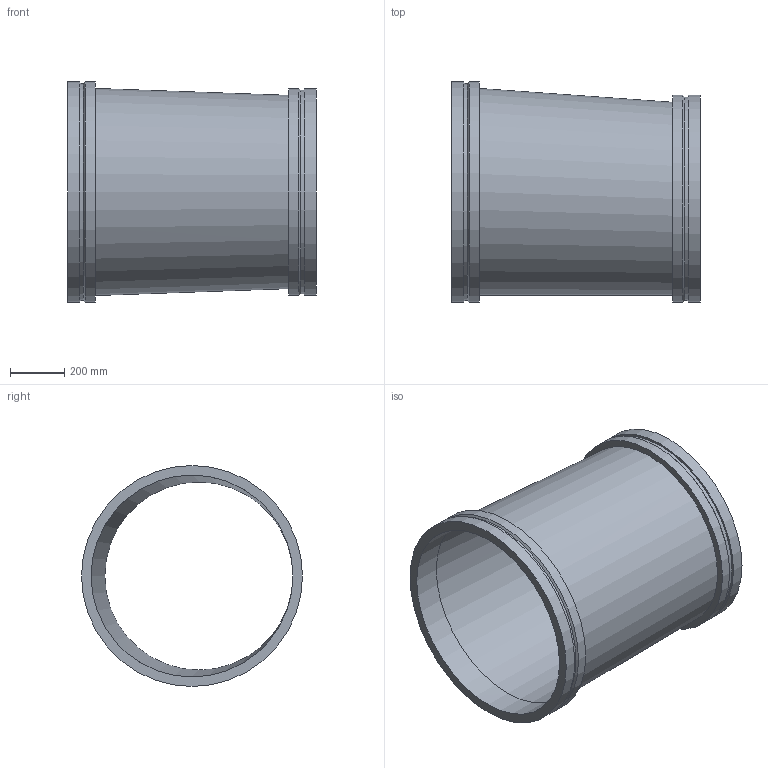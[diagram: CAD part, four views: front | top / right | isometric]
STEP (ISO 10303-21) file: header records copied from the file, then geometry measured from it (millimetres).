
FILE_DESCRIPTION(/* description */ ('VIC REDUCER ECCENTRIC No W51-VR','CAx-IF Rec.Pracs.---Representation and Presentation of Product Manufacturing Information (PMI)---4.0---2014-10-13'),/* implementation_level */ '2;1');
FILE_NAME(/* name */ 'C:\Users\kkamble\AppData\Roaming\Autodesk\ApplicationPlugins\Back Up\Victaulic_Vic-Ring_Reducer Eccentric_No W51 VR (AGR)\Victaulic_Vic-Ring_Reducer Eccentric_No W51 VR (AGR)_30.0x28.0 (750x700).stp',/* time_stamp */ '2020-09-10T11:50:13+05:00',/* author */ ('CONSTRUCTION PIPING SERVICES'),/* organization */ ('Victaulic'),/* preprocessor_version */ 'ST-DEVELOPER v17.2',/* originating_system */ 'Autodesk Inventor 2019',/* authorisation */ '');
FILE_SCHEMA (('AP242_MANAGED_MODEL_BASED_3D_ENGINEERING_MIM_LF { 1 0 10303 442 1 1 4 }'));
Length unit declared in the file: inch
Products named in the file (1): W51 VR-30.0x28.0
Bounding box: 914.4 x 812.8 x 812.8 mm (x, y, z)
Volume: 31698434.2 mm3; surface area: 4550137.7 mm2
Topology: 1 solids, 1 shells, 18 faces, 49 edges, 37 vertices
Faces by surface type: cylinder 8, plane 6, cone 2, bspline 2
Full cylindrical faces by diameter (mm): 692.15 x1, 742.95 x1, 747.522 x1, 762 x2, 798.322 x1, 812.8 x2
Entity records: 792 total; most frequent: CARTESIAN_POINT 158, DIRECTION 144, ORIENTED_EDGE 98, AXIS2_PLACEMENT_3D 67, EDGE_CURVE 49, CIRCLE 37, VERTEX_POINT 37, EDGE_LOOP 24
